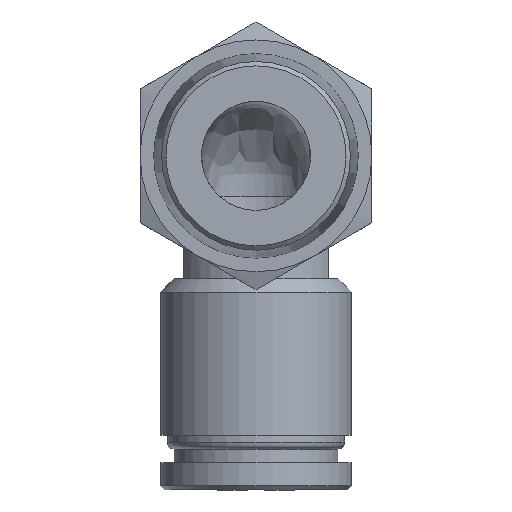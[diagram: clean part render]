
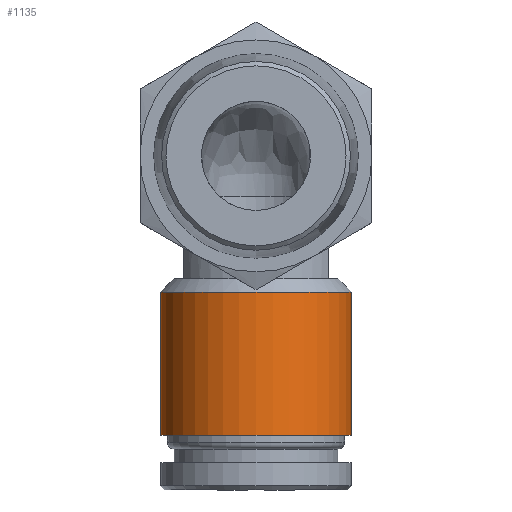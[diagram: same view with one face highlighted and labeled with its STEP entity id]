
A CAD part, front view. The second image highlights one B-rep face of the part: STEP entity #1135.
In plain terms, the highlighted cylindrical face has radius 7 mm (diameter 14 mm), a full revolution.
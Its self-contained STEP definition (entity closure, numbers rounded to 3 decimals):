
#81=CYLINDRICAL_SURFACE('',#1281,7.);
#144=FACE_OUTER_BOUND('',#221,.T.);
#221=EDGE_LOOP('',(#982,#983,#984,#985));
#284=CIRCLE('',#1274,7.);
#287=CIRCLE('',#1280,7.);
#363=LINE('',#1986,#435);
#435=VECTOR('',#1591,7.);
#534=VERTEX_POINT('',#1973);
#536=VERTEX_POINT('',#1983);
#685=EDGE_CURVE('',#534,#534,#284,.T.);
#689=EDGE_CURVE('',#536,#536,#287,.T.);
#690=EDGE_CURVE('',#534,#536,#363,.T.);
#982=ORIENTED_EDGE('',*,*,#685,.F.);
#983=ORIENTED_EDGE('',*,*,#690,.T.);
#984=ORIENTED_EDGE('',*,*,#689,.T.);
#985=ORIENTED_EDGE('',*,*,#690,.F.);
#1135=ADVANCED_FACE('',(#144),#81,.T.);
#1274=AXIS2_PLACEMENT_3D('',#1975,#1574,#1575);
#1280=AXIS2_PLACEMENT_3D('',#1984,#1587,#1588);
#1281=AXIS2_PLACEMENT_3D('',#1985,#1589,#1590);
#1574=DIRECTION('center_axis',(0.,0.,1.));
#1575=DIRECTION('ref_axis',(1.,0.,0.));
#1587=DIRECTION('center_axis',(0.,0.,1.));
#1588=DIRECTION('ref_axis',(1.,0.,0.));
#1589=DIRECTION('center_axis',(0.,0.,1.));
#1590=DIRECTION('ref_axis',(0.,-1.,0.));
#1591=DIRECTION('',(0.,0.,-1.));
#1973=CARTESIAN_POINT('',(0.,18.5,-10.));
#1975=CARTESIAN_POINT('Origin',(0.,11.5,-10.));
#1983=CARTESIAN_POINT('',(0.,18.5,-20.5));
#1984=CARTESIAN_POINT('Origin',(0.,11.5,-20.5));
#1985=CARTESIAN_POINT('Origin',(0.,11.5,-15.25));
#1986=CARTESIAN_POINT('',(0.,18.5,-15.25));
